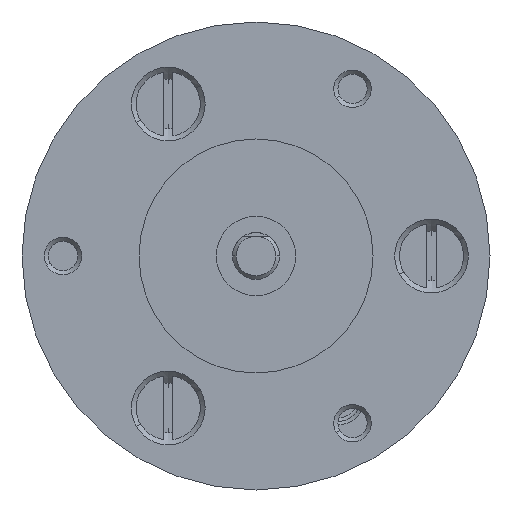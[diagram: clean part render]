
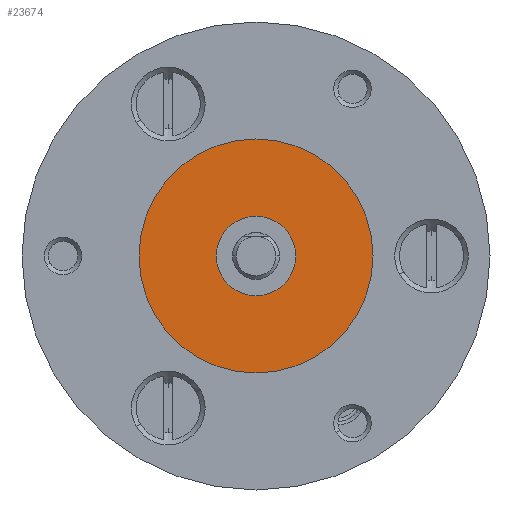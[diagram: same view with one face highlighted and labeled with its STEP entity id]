
A CAD part, left-side view. The second image highlights one B-rep face of the part: STEP entity #23674.
In plain terms, the highlighted planar face has unit normal (-1, 0, 0).
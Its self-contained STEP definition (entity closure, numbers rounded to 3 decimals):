
#15991 = CARTESIAN_POINT ( 'NONE',  ( -55.711, 13.775, -5. ) ) ;
#16050 = DIRECTION ( 'NONE',  ( 0., -0.866, 0.5 ) ) ;
#16051 = DIRECTION ( 'NONE',  ( -1., 0., 0. ) ) ;
#16052 = CARTESIAN_POINT ( 'NONE',  ( -55.711, 5.115, 0. ) ) ;
#16053 = AXIS2_PLACEMENT_3D ( 'NONE', #16052, #16051, #16050 ) ;
#16054 = CIRCLE ( 'NONE', #16053, 3.4 ) ;
#16128 = CARTESIAN_POINT ( 'NONE',  ( -55.711, -3.545, 5. ) ) ;
#16129 = DIRECTION ( 'NONE',  ( 0., -0.866, 0.5 ) ) ;
#16130 = DIRECTION ( 'NONE',  ( -1., 0., 0. ) ) ;
#16131 = CARTESIAN_POINT ( 'NONE',  ( -55.711, 5.115, 0. ) ) ;
#16132 = AXIS2_PLACEMENT_3D ( 'NONE', #16131, #16130, #16129 ) ;
#16133 = CIRCLE ( 'NONE', #16132, 10. ) ;
#16148 = CARTESIAN_POINT ( 'NONE',  ( -55.711, 2.17, 1.7 ) ) ;
#16149 = CARTESIAN_POINT ( 'NONE',  ( -55.711, 8.059, -1.7 ) ) ;
#16209 = DIRECTION ( 'NONE',  ( 0., -0.866, 0.5 ) ) ;
#16210 = DIRECTION ( 'NONE',  ( -1., 0., 0. ) ) ;
#16211 = CARTESIAN_POINT ( 'NONE',  ( -55.711, 5.115, 0. ) ) ;
#16212 = AXIS2_PLACEMENT_3D ( 'NONE', #16211, #16210, #16209 ) ;
#16213 = CIRCLE ( 'NONE', #16212, 10. ) ;
#16303 = FACE_OUTER_BOUND ( 'NONE', #23678, .T. ) ;
#16304 = FACE_BOUND ( 'NONE', #23675, .T. ) ;
#16305 = DIRECTION ( 'NONE',  ( 0., -0.866, 0.5 ) ) ;
#16306 = DIRECTION ( 'NONE',  ( -1., 0., 0. ) ) ;
#16307 = CARTESIAN_POINT ( 'NONE',  ( -55.711, 5.115, 0. ) ) ;
#16308 = AXIS2_PLACEMENT_3D ( 'NONE', #16307, #16306, #16305 ) ;
#16314 = CIRCLE ( 'NONE', #16308, 3.4 ) ;
#16336 = DIRECTION ( 'NONE',  ( 0., 0.866, -0.5 ) ) ;
#16337 = DIRECTION ( 'NONE',  ( 1., 0., 0. ) ) ;
#16338 = CARTESIAN_POINT ( 'NONE',  ( -55.711, 10.115, 8.66 ) ) ;
#16339 = AXIS2_PLACEMENT_3D ( 'NONE', #16338, #16337, #16336 ) ;
#16341 = PLANE ( 'NONE',  #16339 ) ;
#23564 = VERTEX_POINT ( 'NONE', #15991 ) ;
#23606 = EDGE_CURVE ( 'NONE', #23632, #23634, #16054, .T. ) ;
#23620 = EDGE_CURVE ( 'NONE', #23621, #23564, #16133, .T. ) ;
#23621 = VERTEX_POINT ( 'NONE', #16128 ) ;
#23632 = VERTEX_POINT ( 'NONE', #16149 ) ;
#23634 = VERTEX_POINT ( 'NONE', #16148 ) ;
#23654 = ORIENTED_EDGE ( 'NONE', *, *, #23655, .T. ) ;
#23655 = EDGE_CURVE ( 'NONE', #23564, #23621, #16213, .T. ) ;
#23673 = EDGE_CURVE ( 'NONE', #23634, #23632, #16314, .T. ) ;
#23674 = ADVANCED_FACE ( 'NONE', ( #16304, #16303 ), #16341, .F. ) ;
#23675 = EDGE_LOOP ( 'NONE', ( #23676, #23677 ) ) ;
#23676 = ORIENTED_EDGE ( 'NONE', *, *, #23673, .F. ) ;
#23677 = ORIENTED_EDGE ( 'NONE', *, *, #23606, .F. ) ;
#23678 = EDGE_LOOP ( 'NONE', ( #23680, #23654 ) ) ;
#23680 = ORIENTED_EDGE ( 'NONE', *, *, #23620, .T. ) ;
